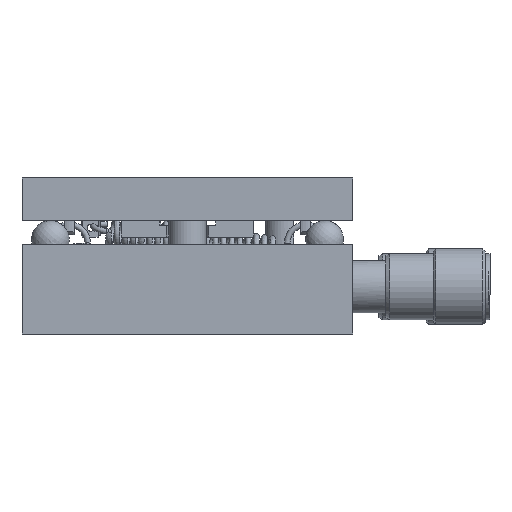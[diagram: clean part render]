
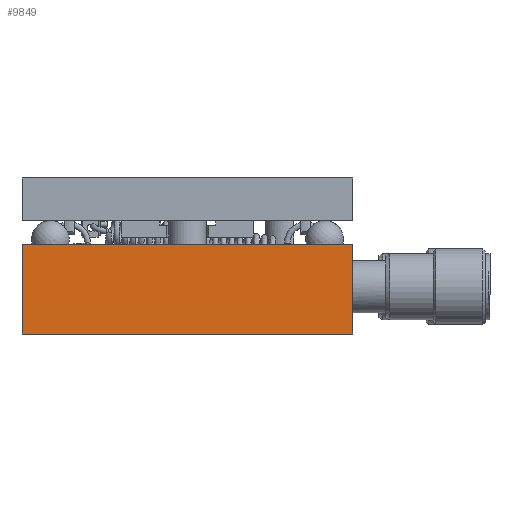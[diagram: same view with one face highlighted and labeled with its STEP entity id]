
A CAD part, left-side view. The second image highlights one B-rep face of the part: STEP entity #9849.
In plain terms, the highlighted planar face has unit normal (-1, 0, 0) by its records, which use the part's own axes.
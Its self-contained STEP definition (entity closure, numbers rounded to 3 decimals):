
#1005=LINE($,#24068,#1621);
#1019=LINE($,#24160,#1635);
#1061=LINE($,#24290,#1677);
#1062=LINE($,#24291,#1678);
#1621=VECTOR($,#12153,19.);
#1635=VECTOR($,#12249,70.);
#1677=VECTOR($,#12389,19.);
#1678=VECTOR($,#12390,70.);
#2032=PLANE($,#10533);
#2992=FACE_OUTER_BOUND($,#3727,.T.);
#3727=EDGE_LOOP($,(#8794,#8795,#8796,#8797));
#5040=VERTEX_POINT($,#24065);
#5041=VERTEX_POINT($,#24067);
#5077=VERTEX_POINT($,#24156);
#5117=VERTEX_POINT($,#24289);
#6313=EDGE_CURVE($,#5041,#5040,#1005,.T.);
#6353=EDGE_CURVE($,#5077,#5041,#1019,.T.);
#6416=EDGE_CURVE($,#5077,#5117,#1061,.T.);
#6417=EDGE_CURVE($,#5040,#5117,#1062,.T.);
#8794=ORIENTED_EDGE($,*,*,#6416,.F.);
#8795=ORIENTED_EDGE($,*,*,#6353,.T.);
#8796=ORIENTED_EDGE($,*,*,#6313,.T.);
#8797=ORIENTED_EDGE($,*,*,#6417,.T.);
#9849=ADVANCED_FACE($,(#2992),#2032,.T.);
#10533=AXIS2_PLACEMENT_3D($,#24288,#12387,#12388);
#12153=DIRECTION($,(0.,0.,1.));
#12249=DIRECTION($,(0.,-1.,0.));
#12387=DIRECTION('center_axis',(-1.,0.,0.));
#12388=DIRECTION('ref_axis',(0.,0.,1.));
#12389=DIRECTION($,(0.,0.,1.));
#12390=DIRECTION($,(0.,1.,0.));
#24065=CARTESIAN_POINT('',(0.,4.,19.));
#24067=CARTESIAN_POINT('',(0.,4.,0.));
#24068=CARTESIAN_POINT($,(0.,4.,6.5));
#24156=CARTESIAN_POINT('',(0.,74.,0.));
#24160=CARTESIAN_POINT($,(0.,78.,0.));
#24288=CARTESIAN_POINT('Origin',(0.,0.,0.));
#24289=CARTESIAN_POINT('',(0.,74.,19.));
#24290=CARTESIAN_POINT($,(0.,74.,13.));
#24291=CARTESIAN_POINT($,(0.,78.,19.));
